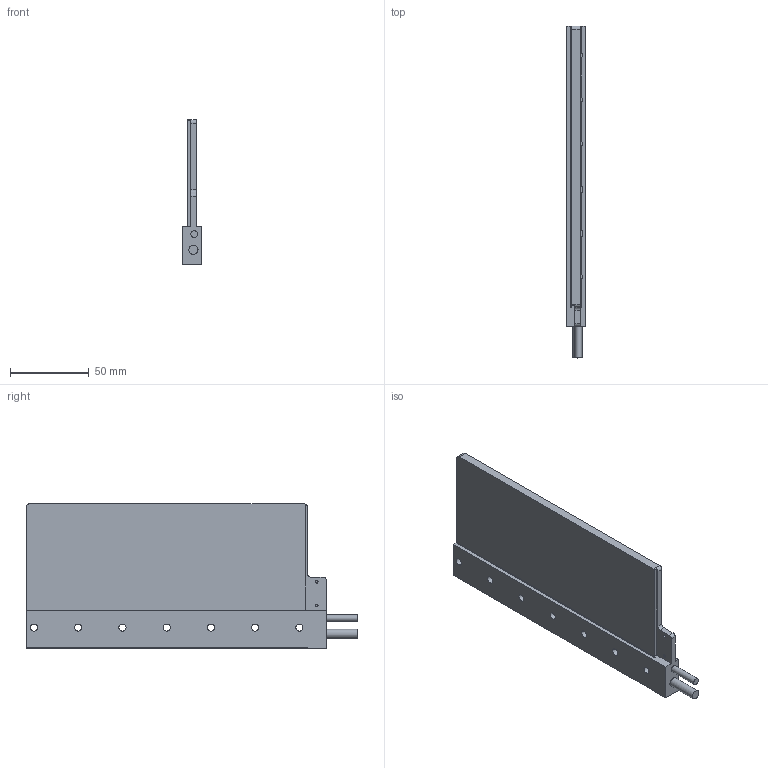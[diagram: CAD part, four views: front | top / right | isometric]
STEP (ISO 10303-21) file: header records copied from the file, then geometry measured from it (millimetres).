
FILE_DESCRIPTION( ( '-' ), '1' );
FILE_NAME( 'C:/Users/peikelboom/Desktop/STEP Files/Ironless/UL/Coilunit UL 6_160607.stp', '20-04-2016', ( 'P.Eikelboom' ), ( 'Technotion' ), 'PSStep 16.0.42', '-', ' ' );
FILE_SCHEMA( ( 'AUTOMOTIVE_DESIGN { 1 0 10303 214 1 1 1 1 }' ) );
Length unit declared in the file: millimetre
Products named in the file (1): GietharsUL6
Bounding box: 12 x 210 x 91.3 mm (x, y, z)
Surface area: 42655.4 mm2 (no closed solid volume)
Topology: 0 solids, 128 shells, 128 faces, 682 edges, 661 vertices
Faces by surface type: plane 63, cylinder 61, cone 4
Full cylindrical faces by diameter (mm): 1.6 x2, 3 x2, 3.2 x2, 4.3 x1, 4.5 x7, 5.7 x2, 5.8 x1
Entity records: 7692 total; most frequent: CARTESIAN_POINT 1629, DIRECTION 1102, ORIENTED_EDGE 642, EDGE_CURVE 642, VERTEX_POINT 642, LINE 392, VECTOR 392, AXIS2_PLACEMENT_3D 355
